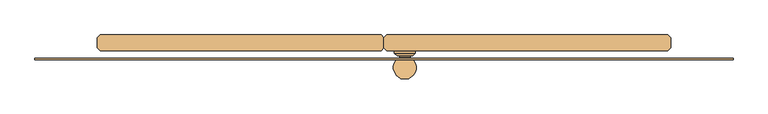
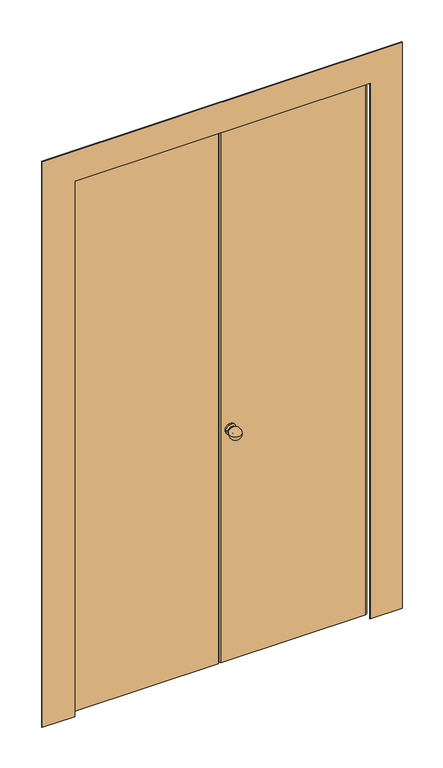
"""IFC4 building model written with IfcOpenShell, lengths in millimetres: door geometry, Placard pliante : Placard pliante 110."""

from ifc_helpers import new_model, si_unit, point, frame, origin, origin_with_axes, place, context, project, spatial, polyline, circle_curve, ellipse_curve, trimmed, outline, extrude, source, transform, mapped, element, save
from ifc_brep_helpers import plane_surface, cylinder_surface, revolved_surface, advanced_brep


def door_98363a51(model_context):
    return source(origin(), model_context, "Body", "SolidModel", [
        advanced_brep(
        [(50.0, -32.7245901, 910.0), (30.0, -32.7245901, 910.0), (30.0, -30.0, 910.0), (50.0, -30.0, 910.0), (40.0, -74.3205081, 910.0), (60.0, -20.0, 910.0), (20.0, -20.0, 910.0), (40.0, -20.0, 910.0), (60.0, -25.0, 910.0), (20.0, -25.0, 910.0), (55.0, -30.0, 910.0), (25.0, -30.0, 910.0)],
        [
            (0, 1, circle_curve(frame((40.0, -32.7245901, 910.0), z_axis=(0.0, 1.0, 0.0), x_axis=(-1.0, 0.0, 0.0)), 10.0)),
            (1, 2),
            (2, 3, circle_curve(frame((40.0, -30.0, 910.0), z_axis=(0.0, -1.0, 0.0), x_axis=(-1.0, 0.0, 0.0)), 10.0)),
            (3, 0),
            (1, 0, circle_curve(frame((40.0, -32.7245901, 910.0), z_axis=(0.0, 1.0, 0.0), x_axis=(-1.0, 0.0, 0.0)), 10.0)),
            (3, 2, circle_curve(frame((40.0, -30.0, 910.0), z_axis=(0.0, -1.0, 0.0), x_axis=(-1.0, 0.0, 0.0)), 10.0)),
            (4, 1, circle_curve(frame((40.0, -52.3205081, 910.0), z_axis=(0.0, 0.0, -1.0), x_axis=(0.0, -1.0, 0.0)), 22.0)),
            (0, 4, circle_curve(frame((40.0, -52.3205081, 910.0), z_axis=(0.0, 0.0, -1.0), x_axis=(0.0, -1.0, 0.0)), 22.0)),
            (5, 6, circle_curve(frame((40.0, -20.0, 910.0), z_axis=(0.0, 1.0, 0.0), x_axis=(-1.0, 0.0, 0.0)), 20.0)),
            (6, 7),
            (7, 5),
            (6, 5, circle_curve(frame((40.0, -20.0, 910.0), z_axis=(0.0, 1.0, 0.0), x_axis=(-1.0, 0.0, 0.0)), 20.0)),
            (8, 9, circle_curve(frame((40.0, -25.0, 910.0), z_axis=(0.0, 1.0, 0.0), x_axis=(-1.0, 0.0, 0.0)), 20.0)),
            (9, 6),
            (5, 8),
            (9, 8, circle_curve(frame((40.0, -25.0, 910.0), z_axis=(0.0, 1.0, 0.0), x_axis=(-1.0, 0.0, 0.0)), 20.0)),
            (10, 11, circle_curve(frame((40.0, -30.0, 910.0), z_axis=(0.0, 1.0, 0.0), x_axis=(-1.0, 0.0, 0.0)), 15.0)),
            (11, 9),
            (8, 10),
            (11, 10, circle_curve(frame((40.0, -30.0, 910.0), z_axis=(0.0, 1.0, 0.0), x_axis=(-1.0, 0.0, 0.0)), 15.0)),
            (2, 11),
            (10, 3),
        ],
        [
            cylinder_surface(frame((40.0, 569.1103609, 910.0), z_axis=(0.0, -1.0, 0.0), x_axis=(-1.0, 0.0, 0.0)), 10.0),
            revolved_surface(trimmed(ellipse_curve(frame((40.0, -52.3205081, 910.0), z_axis=(0.0, 0.0, 1.0), x_axis=(0.0, -1.0, 0.0)), 22.0, 22.0), [point((30.0, -32.7245901, 910.0))], [point((40.0, -74.3205081, 910.0))], True, "CARTESIAN"), (40.0, 569.1103609, 910.0), (0.0, -1.0, 0.0)),
            plane_surface(frame((40.0, -20.0, 910.0), z_axis=(0.0, 1.0, 0.0), x_axis=(-1.0, 0.0, 0.0))),
            cylinder_surface(frame((40.0, 569.1103609, 910.0), z_axis=(0.0, -1.0, 0.0), x_axis=(-1.0, 0.0, 0.0)), 20.0),
            revolved_surface(polyline([(20.0, -25.0, 910.0), (25.0, -30.0, 910.0)]), (40.0, 569.1103609, 910.0), (0.0, -1.0, 0.0)),
            plane_surface(frame((40.0, -30.0, 910.0), z_axis=(0.0, -1.0, 0.0), x_axis=(-1.0, 0.0, 0.0))),
        ],
        [
            (0, [[1, 2, 3, 4]]),
            (0, [[5, -4, 6, -2]]),
            (1, [[7, -1, 8]]),
            (1, [[-8, -5, -7]]),
            (2, [[9, 10, 11]]),
            (2, [[12, -11, -10]]),
            (3, [[13, 14, -9, 15]]),
            (3, [[16, -15, -12, -14]]),
            (4, [[17, 18, -13, 19]]),
            (4, [[20, -19, -16, -18]]),
            (5, [[-3, 21, -17, 22]]),
            (5, [[-6, -22, -20, -21]]),
        ],
    ),
        extrude(outline(polyline([(544.9960715, -20.0), (5.0039285, -20.0), (0.0, -15.0), (0.0, 5.0), (5.0039285, 10.0), (544.9960715, 10.0), (550.0, 5.0), (550.0, -15.0), (544.9960715, -20.0)])), origin_with_axes(), (0.0, 0.0, 1.0), 2100.0),
        extrude(outline(polyline([(-5.0039285, -20.0), (-544.9960715, -20.0), (-550.0, -15.0), (-550.0, 5.0), (-544.9960715, 10.0), (-5.0039285, 10.0), (0.0, 5.0), (0.0, -15.0), (-5.0039285, -20.0)])), origin_with_axes(), (0.0, 0.0, 1.0), 2100.0),
        extrude(outline(polyline([(2220.0, 670.0), (2220.0, -670.0), (-7.4641799, -670.0), (-7.4641799, -550.0), (2100.0, -550.0), (2100.0, 550.0), (-7.4641799, 550.0), (-7.4641799, 670.0), (2220.0, 670.0)])), frame((0.0, -38.0, 0.0), z_axis=(0.0, 1.0, 0.0), x_axis=(0.0, 0.0, 1.0)), (0.0, 0.0, 1.0), 3.0),
    ])


if __name__ == "__main__":
    model = new_model("IFC4")
    model_context = context("Model", 3, world=origin())
    ifc_project = project(units=[si_unit("LENGTHUNIT", "METRE", prefix="MILLI")], contexts=[model_context])
    site = spatial("IfcSite", under=ifc_project)
    building = spatial("IfcBuilding", under=site)
    placement = place(None, origin())
    door_shape = door_98363a51(model_context)
    element("IfcDoor", 1, ObjectType="Placard pliante : Placard pliante 110", at=placement, inside=building, context=model_context, shape_type="MappedRepresentation", body=[
        mapped(door_shape, transform((0.0, 0.0, 0.0), x_axis=(1.0, 0.0, 0.0), y_axis=(0.0, 1.0, 0.0), z_axis=(0.0, 0.0, 1.0))),
    ])
    save(model, "model.ifc")
